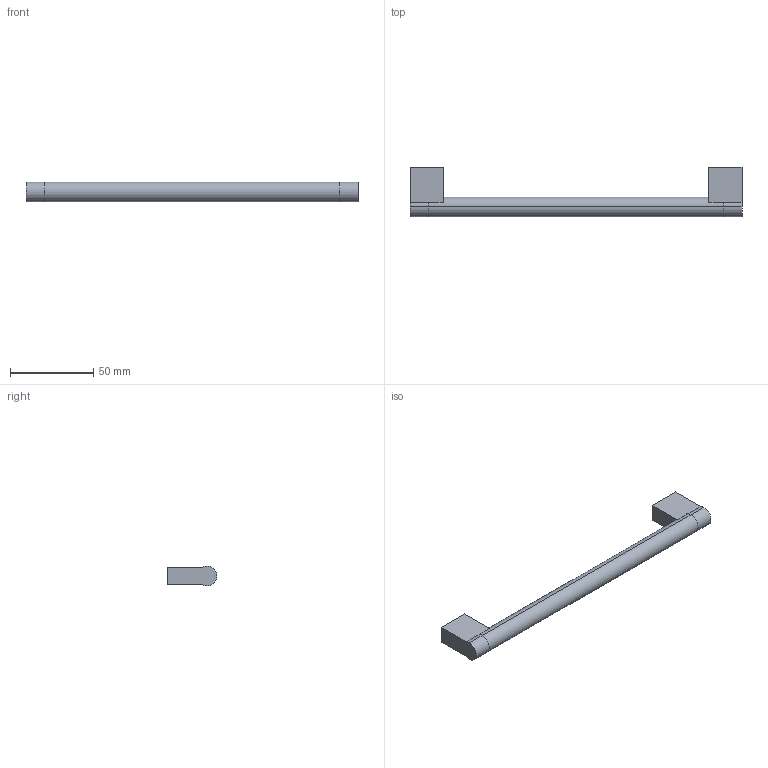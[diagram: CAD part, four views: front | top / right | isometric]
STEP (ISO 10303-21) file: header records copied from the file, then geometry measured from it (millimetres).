
FILE_DESCRIPTION( ( '' ), '1' );
FILE_NAME( 'C:/Documents and Settings/Sachin/Desktop/Sheet 10_1/stp/ 9069953.stp', '2013-10-22T09:54:13', ( '' ), ( '' ), ' ', ' ', ' ' );
FILE_SCHEMA( ( 'CONFIG_CONTROL_DESIGN' ) );
Length unit declared in the file: millimetre
Products named in the file (1): 1
Bounding box: 200 x 30 x 12 mm (x, y, z)
Volume: 30491.4 mm3; surface area: 10893.6 mm2
Topology: 1 solids, 1 shells, 30 faces, 70 edges, 44 vertices
Faces by surface type: plane 16, cylinder 14
Entity records: 906 total; most frequent: DIRECTION 164, CARTESIAN_POINT 145, ORIENTED_EDGE 140, EDGE_CURVE 70, AXIS2_PLACEMENT_3D 63, VERTEX_POINT 44, LINE 38, VECTOR 38
